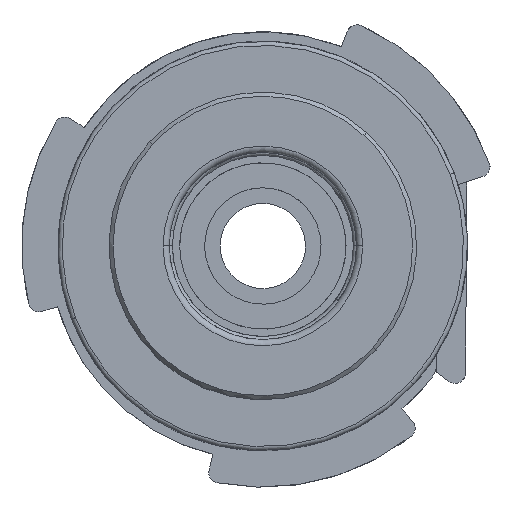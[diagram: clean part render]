
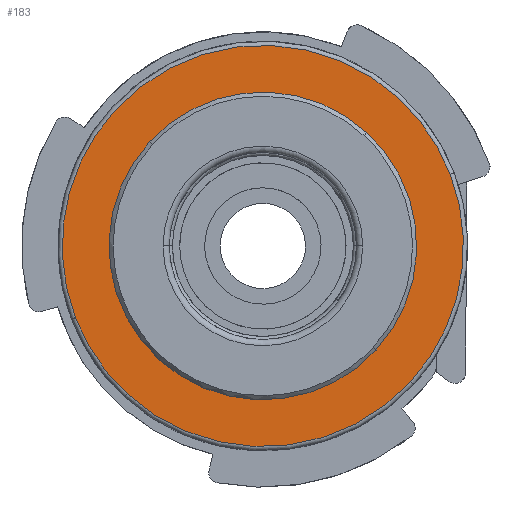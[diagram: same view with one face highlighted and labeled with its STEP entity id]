
A CAD part, front view. The second image highlights one B-rep face of the part: STEP entity #183.
In plain terms, the highlighted planar face has unit normal (0, -1, 0).
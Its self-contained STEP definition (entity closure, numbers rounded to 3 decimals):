
#55=AXIS2_PLACEMENT_3D('Circle Axis2P3D',#53,#54,$) ;
#88=AXIS2_PLACEMENT_3D('Circle Axis2P3D',#86,#87,$) ;
#115=AXIS2_PLACEMENT_3D('Plane Axis2P3D',#112,#113,#114) ;
#119=AXIS2_PLACEMENT_3D('Circle Axis2P3D',#117,#118,$) ;
#128=AXIS2_PLACEMENT_3D('Circle Axis2P3D',#126,#127,$) ;
#135=AXIS2_PLACEMENT_3D('Circle Axis2P3D',#133,#134,$) ;
#142=AXIS2_PLACEMENT_3D('Circle Axis2P3D',#140,#141,$) ;
#149=AXIS2_PLACEMENT_3D('Circle Axis2P3D',#147,#148,$) ;
#156=AXIS2_PLACEMENT_3D('Circle Axis2P3D',#154,#155,$) ;
#169=AXIS2_PLACEMENT_3D('Circle Axis2P3D',#167,#168,$) ;
#174=AXIS2_PLACEMENT_3D('Circle Axis2P3D',#172,#173,$) ;
#50=CARTESIAN_POINT('Vertex',(-5.452,-380.805,-65.483)) ;
#53=CARTESIAN_POINT('Axis2P3D Location',(0.,-380.805,-70.486)) ;
#57=CARTESIAN_POINT('Vertex',(-5.004,-380.805,-75.938)) ;
#81=CARTESIAN_POINT('Vertex',(5.452,-380.805,-75.49)) ;
#86=CARTESIAN_POINT('Axis2P3D Location',(0.,-380.805,-70.486)) ;
#90=CARTESIAN_POINT('Vertex',(5.004,-380.805,-65.034)) ;
#112=CARTESIAN_POINT('Axis2P3D Location',(0.,-380.805,-70.486)) ;
#117=CARTESIAN_POINT('Axis2P3D Location',(0.,-380.805,-70.486)) ;
#121=CARTESIAN_POINT('Vertex',(-7.11,-380.805,-63.961)) ;
#123=CARTESIAN_POINT('Vertex',(-9.015,-380.805,-73.93)) ;
#126=CARTESIAN_POINT('Axis2P3D Location',(0.,-380.805,-70.486)) ;
#130=CARTESIAN_POINT('Vertex',(-6.525,-380.805,-77.596)) ;
#133=CARTESIAN_POINT('Axis2P3D Location',(0.,-380.805,-70.486)) ;
#137=CARTESIAN_POINT('Vertex',(7.11,-380.805,-77.011)) ;
#140=CARTESIAN_POINT('Axis2P3D Location',(0.,-380.805,-70.486)) ;
#144=CARTESIAN_POINT('Vertex',(9.015,-380.805,-67.043)) ;
#147=CARTESIAN_POINT('Axis2P3D Location',(0.,-380.805,-70.486)) ;
#151=CARTESIAN_POINT('Vertex',(6.525,-380.805,-63.377)) ;
#154=CARTESIAN_POINT('Axis2P3D Location',(0.,-380.805,-70.486)) ;
#167=CARTESIAN_POINT('Axis2P3D Location',(0.,-380.805,-70.486)) ;
#172=CARTESIAN_POINT('Axis2P3D Location',(0.,-380.805,-70.486)) ;
#54=DIRECTION('Axis2P3D Direction',(0.,-1.,0.)) ;
#87=DIRECTION('Axis2P3D Direction',(0.,-1.,-0.)) ;
#113=DIRECTION('Axis2P3D Direction',(0.,-1.,0.)) ;
#114=DIRECTION('Axis2P3D XDirection',(0.737,0.,-0.676)) ;
#118=DIRECTION('Axis2P3D Direction',(0.,-1.,0.)) ;
#127=DIRECTION('Axis2P3D Direction',(0.,-1.,0.)) ;
#134=DIRECTION('Axis2P3D Direction',(0.,-1.,0.)) ;
#141=DIRECTION('Axis2P3D Direction',(0.,-1.,0.)) ;
#148=DIRECTION('Axis2P3D Direction',(0.,-1.,0.)) ;
#155=DIRECTION('Axis2P3D Direction',(0.,-1.,0.)) ;
#168=DIRECTION('Axis2P3D Direction',(0.,-1.,0.)) ;
#173=DIRECTION('Axis2P3D Direction',(0.,-1.,0.)) ;
#160=ORIENTED_EDGE('',*,*,#125,.T.) ;
#161=ORIENTED_EDGE('',*,*,#132,.T.) ;
#162=ORIENTED_EDGE('',*,*,#139,.T.) ;
#163=ORIENTED_EDGE('',*,*,#146,.T.) ;
#164=ORIENTED_EDGE('',*,*,#153,.T.) ;
#165=ORIENTED_EDGE('',*,*,#158,.T.) ;
#178=ORIENTED_EDGE('',*,*,#59,.F.) ;
#179=ORIENTED_EDGE('',*,*,#171,.T.) ;
#180=ORIENTED_EDGE('',*,*,#92,.T.) ;
#181=ORIENTED_EDGE('',*,*,#176,.T.) ;
#182=FACE_BOUND('',#177,.T.) ;
#183=ADVANCED_FACE('\X2\987690E85BC65C01652F64915708\X0\.1\\\X2\96F64EF651E04F554F53\X0\',(#166,#182),#116,.T.) ;
#56=CIRCLE('generated circle',#55,7.4) ;
#89=CIRCLE('generated circle',#88,7.4) ;
#120=CIRCLE('generated circle',#119,9.65) ;
#129=CIRCLE('generated circle',#128,9.65) ;
#136=CIRCLE('generated circle',#135,9.65) ;
#143=CIRCLE('generated circle',#142,9.65) ;
#150=CIRCLE('generated circle',#149,9.65) ;
#157=CIRCLE('generated circle',#156,9.65) ;
#170=CIRCLE('generated circle',#169,7.4) ;
#175=CIRCLE('generated circle',#174,7.4) ;
#59=EDGE_CURVE('',#51,#58,#56,.T.) ;
#92=EDGE_CURVE('',#91,#82,#89,.F.) ;
#125=EDGE_CURVE('',#122,#124,#120,.T.) ;
#132=EDGE_CURVE('',#124,#131,#129,.T.) ;
#139=EDGE_CURVE('',#131,#138,#136,.T.) ;
#146=EDGE_CURVE('',#138,#145,#143,.T.) ;
#153=EDGE_CURVE('',#145,#152,#150,.T.) ;
#158=EDGE_CURVE('',#152,#122,#157,.T.) ;
#171=EDGE_CURVE('',#51,#91,#170,.F.) ;
#176=EDGE_CURVE('',#82,#58,#175,.F.) ;
#159=EDGE_LOOP('',(#160,#161,#162,#163,#164,#165)) ;
#177=EDGE_LOOP('',(#178,#179,#180,#181)) ;
#166=FACE_OUTER_BOUND('',#159,.T.) ;
#116=PLANE('Plane',#115) ;
#51=VERTEX_POINT('',#50) ;
#58=VERTEX_POINT('',#57) ;
#82=VERTEX_POINT('',#81) ;
#91=VERTEX_POINT('',#90) ;
#122=VERTEX_POINT('',#121) ;
#124=VERTEX_POINT('',#123) ;
#131=VERTEX_POINT('',#130) ;
#138=VERTEX_POINT('',#137) ;
#145=VERTEX_POINT('',#144) ;
#152=VERTEX_POINT('',#151) ;
